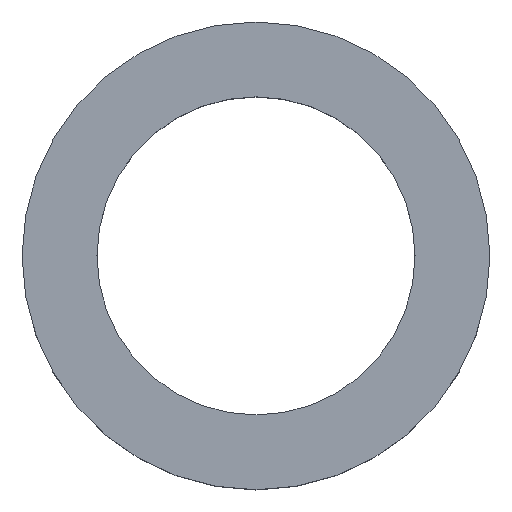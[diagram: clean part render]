
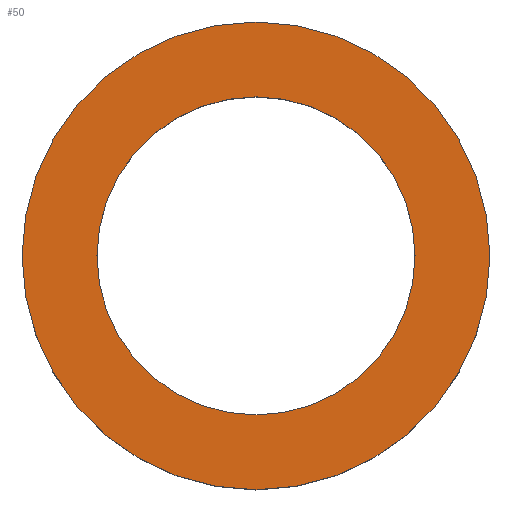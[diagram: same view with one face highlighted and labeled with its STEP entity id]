
A CAD part, top view. The second image highlights one B-rep face of the part: STEP entity #50.
In plain terms, the highlighted planar face has unit normal (0, 0, 1).
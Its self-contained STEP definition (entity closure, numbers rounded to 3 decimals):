
#21 = EDGE_CURVE('',#22,#22,#24,.T.);
#22 = VERTEX_POINT('',#23);
#23 = CARTESIAN_POINT('',(10.,0.,5.));
#24 = CIRCLE('',#25,10.);
#25 = AXIS2_PLACEMENT_3D('',#26,#27,#28);
#26 = CARTESIAN_POINT('',(0.,0.,5.));
#27 = DIRECTION('',(0.,0.,1.));
#28 = DIRECTION('',(1.,0.,0.));
#50 = ADVANCED_FACE('',(#51,#54),#65,.T.);
#51 = FACE_BOUND('',#52,.T.);
#52 = EDGE_LOOP('',(#53));
#53 = ORIENTED_EDGE('',*,*,#21,.T.);
#54 = FACE_BOUND('',#55,.T.);
#55 = EDGE_LOOP('',(#56));
#56 = ORIENTED_EDGE('',*,*,#57,.F.);
#57 = EDGE_CURVE('',#58,#58,#60,.T.);
#58 = VERTEX_POINT('',#59);
#59 = CARTESIAN_POINT('',(6.8,0.,5.));
#60 = CIRCLE('',#61,6.8);
#61 = AXIS2_PLACEMENT_3D('',#62,#63,#64);
#62 = CARTESIAN_POINT('',(0.,0.,5.));
#63 = DIRECTION('',(0.,0.,1.));
#64 = DIRECTION('',(1.,0.,0.));
#65 = PLANE('',#66);
#66 = AXIS2_PLACEMENT_3D('',#67,#68,#69);
#67 = CARTESIAN_POINT('',(0.,0.,5.));
#68 = DIRECTION('',(0.,0.,1.));
#69 = DIRECTION('',(1.,0.,0.));
